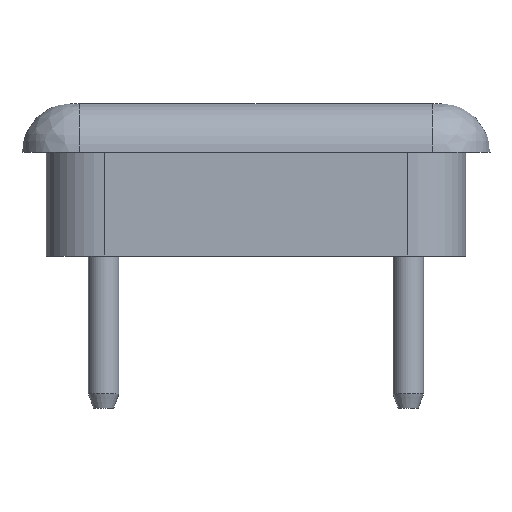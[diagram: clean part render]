
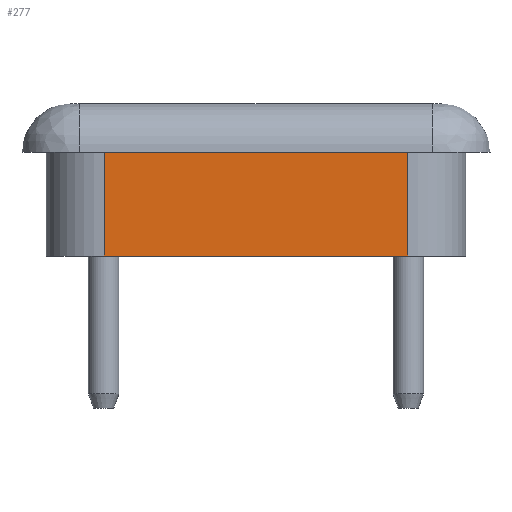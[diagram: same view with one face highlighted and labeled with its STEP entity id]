
A CAD part, front view. The second image highlights one B-rep face of the part: STEP entity #277.
In plain terms, the highlighted planar face has unit normal (0, -1, 0).
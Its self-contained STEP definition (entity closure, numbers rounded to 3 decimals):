
#15=LINE($,#426,#29);
#18=LINE($,#439,#32);
#26=LINE($,#497,#40);
#27=LINE($,#499,#41);
#29=VECTOR($,#347,6.325);
#32=VECTOR($,#358,6.325);
#40=VECTOR($,#394,2.159);
#41=VECTOR($,#397,2.159);
#49=PLANE($,#314);
#74=FACE_OUTER_BOUND($,#98,.T.);
#98=EDGE_LOOP($,(#228,#229,#230,#231));
#126=VERTEX_POINT($,#423);
#127=VERTEX_POINT($,#425);
#132=VERTEX_POINT($,#436);
#133=VERTEX_POINT($,#438);
#148=EDGE_CURVE($,#126,#127,#15,.T.);
#154=EDGE_CURVE($,#132,#133,#18,.T.);
#170=EDGE_CURVE($,#126,#133,#26,.T.);
#171=EDGE_CURVE($,#127,#132,#27,.T.);
#228=ORIENTED_EDGE($,*,*,#154,.F.);
#229=ORIENTED_EDGE($,*,*,#171,.F.);
#230=ORIENTED_EDGE($,*,*,#148,.F.);
#231=ORIENTED_EDGE($,*,*,#170,.T.);
#277=ADVANCED_FACE($,(#74),#49,.T.);
#314=AXIS2_PLACEMENT_3D($,#498,#395,#396);
#347=DIRECTION($,(-1.,0.,0.));
#358=DIRECTION($,(1.,0.,0.));
#394=DIRECTION($,(0.,0.,1.));
#395=DIRECTION('center_axis',(0.,-1.,0.));
#396=DIRECTION('ref_axis',(0.,0.,-1.));
#397=DIRECTION($,(0.,0.,1.));
#423=CARTESIAN_POINT('',(3.162,-1.207,0.));
#425=CARTESIAN_POINT('',(-3.162,-1.207,0.));
#426=CARTESIAN_POINT($,(3.162,-1.207,0.));
#436=CARTESIAN_POINT('',(-3.162,-1.207,2.159));
#438=CARTESIAN_POINT('',(3.162,-1.207,2.159));
#439=CARTESIAN_POINT($,(1.581,-1.207,2.159));
#497=CARTESIAN_POINT($,(3.162,-1.207,0.));
#498=CARTESIAN_POINT('Origin',(3.162,-1.207,0.));
#499=CARTESIAN_POINT($,(-3.162,-1.207,0.));
